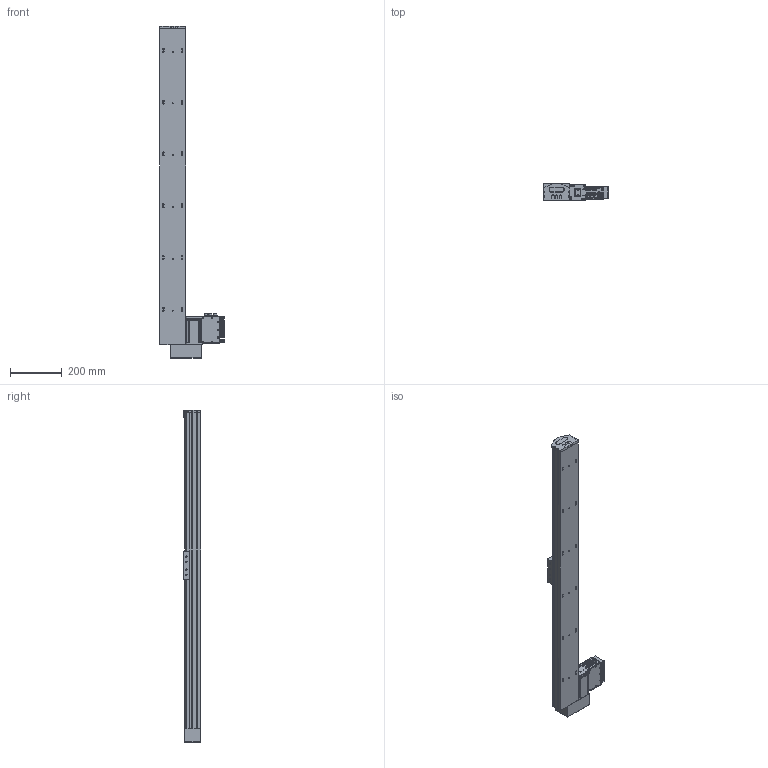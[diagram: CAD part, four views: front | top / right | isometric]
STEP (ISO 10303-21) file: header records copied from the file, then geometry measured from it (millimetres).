
FILE_DESCRIPTION (( 'STEP AP203' ), '1' );
FILE_NAME ('S 10 TSH BR S1000.STEP', '2012-09-04T13:45:22', ( 'Conseil Régional Haute-Normandie' ), ( 'Conseil Régional Haute-Normandie' ), 'SwSTEP 2.0', 'SolidWorks 2010', '' );
FILE_SCHEMA (( 'CONFIG_CONTROL_DESIGN' ));
Length unit declared in the file: millimetre
Products named in the file (25): embout_modifié; T_X2_00F4_X0_le contre le moteur_5; BU41 Carte Alimentation P05_3; Colonnette_3; Connecteur rond D10 3cts_5; Connecteur rond D12 4cts_5; Vis TF 3 torkx_1_1; T_X2_00F4_X0_le lat_X2_00E9_X0_rale_5; renvoie LH2_Default; S 10 TSH BR S1000; axe1220_Default; piece_plastique remplieTSH_Default; remplir_Default; Pièce2_Default; palette tbn2; Assem1_7; BU45 Carte d''axe A11_5; Moteur 60BLDC90A_3; Couvercle_3; T_X2_00F4_X0_le fond_3; Sub D 9cts 90_X2_00B_X0__3; Radiateur profil_X2_00E9_X0_ 100x25_3; Colonnette ronde_3; T_X2_00F4_X0_le Arri_X2_00E8_X0_re_5; Vis TF 3 torkx
Assembly tree (55 placements, depth 3):
  S 10 TSH BR S1000
    Vis TF 3 torkx  x7
    piece_plastique remplieTSH_Default
      remplir_Default  x3
      embout_modifié
      Pièce2_Default
    axe1220_Default
    palette tbn2
    Assem1_7
      Connecteur rond D12 4cts_5
      Vis TF 3 torkx_1_1  x21
      Moteur 60BLDC90A_3
      BU41 Carte Alimentation P05_3
      T_X2_00F4_X0_le contre le moteur_5
      Colonnette_3  x2
      Connecteur rond D10 3cts_5  x2
      Sub D 9cts 90_X2_00B_X0__3
      BU45 Carte d''axe A11_5
      Colonnette ronde_3
      T_X2_00F4_X0_le fond_3
      T_X2_00F4_X0_le lat_X2_00E9_X0_rale_5  x2
      Radiateur profil_X2_00E9_X0_ 100x25_3
      Couvercle_3
      T_X2_00F4_X0_le Arri_X2_00E8_X0_re_5
    renvoie LH2_Default
Bounding box: 249.22 x 67.5 x 1282 mm (x, y, z)
Volume: 7025771.1 mm3; surface area: 883119.6 mm2
Topology: 53 solids, 53 shells, 2000 faces, 5086 edges, 3310 vertices
Faces by surface type: plane 930, cylinder 899, cone 164, sphere 4, torus 3
Entity records: 39593 total; most frequent: CARTESIAN_POINT 6628, DIRECTION 6485, ORIENTED_EDGE 5864, EDGE_CURVE 2932, AXIS2_PLACEMENT_3D 2392, VERTEX_POINT 1922, VECTOR 1701, LINE 1701
